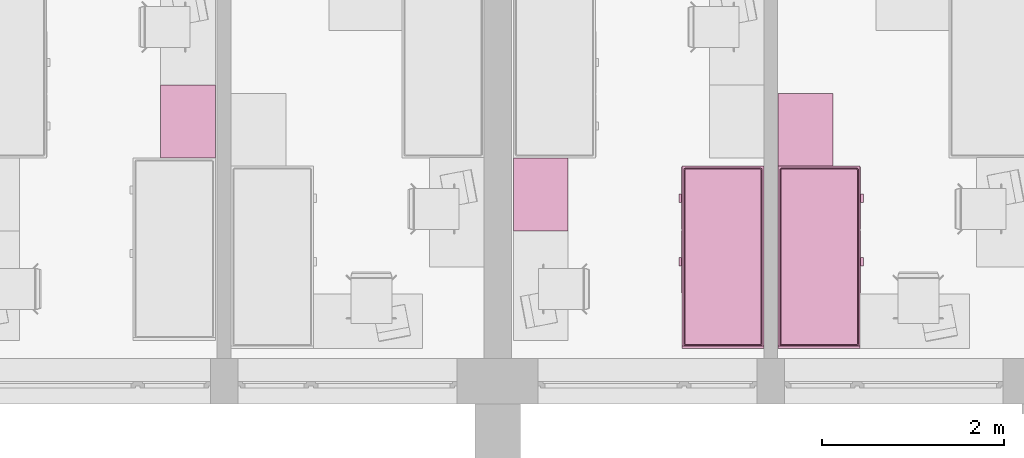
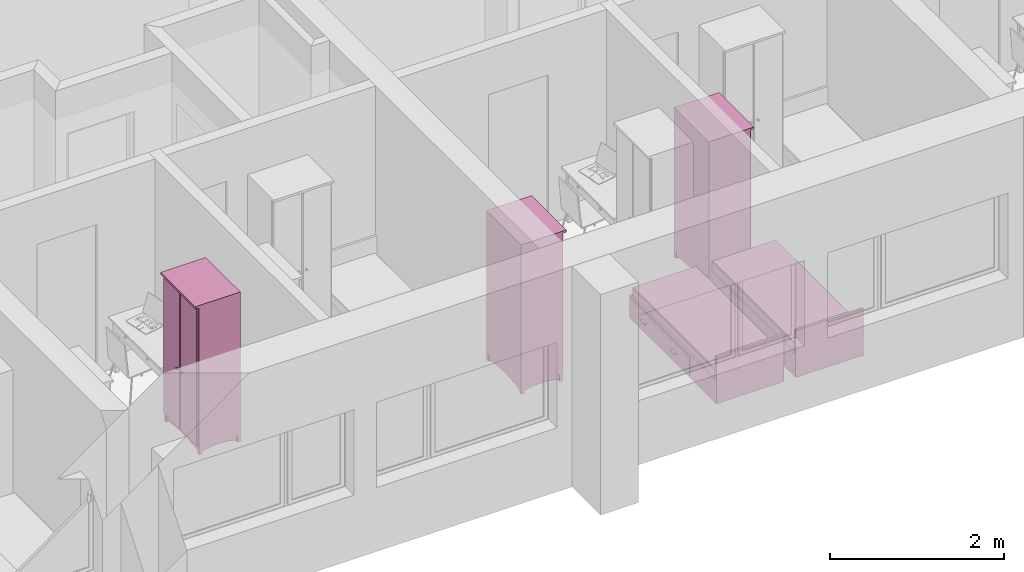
# One storey, part 82 of 172: 5 furnishings.
"""IFC2X3 building model written with IfcOpenShell, lengths in millimetres."""

from ifc_helpers import new_model, entity, si_unit, converted_unit, money_unit, direction, frame, origin_with_axes, place, context, subcontext, project, spatial, faceted_brep, source, transform, mapped, material, material_list, type_object, element, save


model = new_model("IFC2X3")

# Units and contexts
model_context = context("Model", 3, precision=1e-05, world=origin_with_axes(), true_north=direction((0.0, 1.0)))
body_context = subcontext(model_context, "Body", "Model", "MODEL_VIEW")
ifc_project = project(units=[si_unit("LENGTHUNIT", "METRE", prefix="MILLI"), si_unit("AREAUNIT", "SQUARE_METRE"), si_unit("VOLUMEUNIT", "CUBIC_METRE"), converted_unit("PLANEANGLEUNIT", "DEGREE", entity("IfcPlaneAngleMeasure", 0.0174532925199), si_unit("PLANEANGLEUNIT", "RADIAN"), dimensions=[0, 0, 0, 0, 0, 0, 0]), si_unit("SOLIDANGLEUNIT", "STERADIAN"), money_unit("USD"), converted_unit("TIMEUNIT", "Year", entity("IfcTimeMeasure", 31556926.0), si_unit("TIMEUNIT", "SECOND"), dimensions=[0, 0, 0, 0, 0, 0, 0]), si_unit("MASSUNIT", "GRAM"), si_unit("THERMODYNAMICTEMPERATUREUNIT", "DEGREE_CELSIUS"), si_unit("LUMINOUSINTENSITYUNIT", "LUMEN")], contexts=[model_context])

# Site, building, storey
site_placement = place(None, origin_with_axes())
site = spatial("IfcSite", under=ifc_project, at=site_placement, Name="Site", CompositionType="ELEMENT")
building_placement = place(site_placement, origin_with_axes())
building = spatial("IfcBuilding", under=site, at=building_placement, Name="Building", CompositionType="ELEMENT")
storey_placement = place(building_placement, frame((0.0, 0.0, 3200.0), z_axis=(0.0, 0.0, 1.0), x_axis=(1.0, 0.0, 0.0)))
storey = spatial("IfcBuildingStorey", under=building, at=storey_placement, Name="3KORRUS", CompositionType="ELEMENT", Elevation=3200.0)

# Furnishings
ifc_material = material(Name="Background")
ifc_material_list = material_list([ifc_material])
furnishing_element_type_1 = type_object("IfcFurnishingElementType", Name="Bed 19")
shared_shape_1 = source(origin_with_axes(), body_context, "Body", "Brep", [
    faceted_brep([(900.0, 1970.0, 0.0), (0.0, 1970.0, 0.0), (0.0, 2000.0, 0.0), (900.0, 2000.0, 0.0), (900.0, 1970.0, 660.0), (0.0, 1970.0, 660.0), (0.0, 2000.0, 660.0), (900.0, 2000.0, 660.0)], [[[0, 1, 2, 3]], [[1, 0, 4, 5]], [[2, 1, 5, 6]], [[3, 2, 6, 7]], [[0, 3, 7, 4]], [[5, 4, 7, 6]]]),
    faceted_brep([(900.0, 0.0, 0.0), (0.0, 0.0, 0.0), (0.0, 1970.0, 0.0), (900.0, 1970.0, 0.0), (900.0, 0.0, 320.0), (0.0, 0.0, 320.0), (0.0, 1970.0, 320.0), (900.0, 1970.0, 320.0)], [[[0, 1, 2, 3]], [[1, 0, 4, 5]], [[2, 1, 5, 6]], [[3, 2, 6, 7]], [[0, 3, 7, 4]], [[5, 4, 7, 6]]]),
    faceted_brep([(905.0, 10.0, 30.0), (900.0, 10.0, 30.0), (900.0, 695.0, 30.0), (905.0, 695.0, 30.0), (905.0, 10.0, 290.0), (900.0, 10.0, 290.0), (900.0, 695.0, 290.0), (905.0, 695.0, 290.0)], [[[0, 1, 2, 3]], [[1, 0, 4, 5]], [[2, 1, 5, 6]], [[3, 2, 6, 7]], [[0, 3, 7, 4]], [[5, 4, 7, 6]]]),
    faceted_brep([(935.0, 307.5, 150.0), (905.0, 307.5, 150.0), (905.0, 397.5, 150.0), (935.0, 397.5, 150.0), (935.0, 307.5, 170.0), (905.0, 307.5, 170.0), (905.0, 397.5, 170.0), (935.0, 397.5, 170.0)], [[[0, 1, 2, 3]], [[1, 0, 4, 5]], [[2, 1, 5, 6]], [[3, 2, 6, 7]], [[0, 3, 7, 4]], [[5, 4, 7, 6]]]),
    faceted_brep([(905.0, 705.0, 30.0), (900.0, 705.0, 30.0), (900.0, 1390.0, 30.0), (905.0, 1390.0, 30.0), (905.0, 705.0, 290.0), (900.0, 705.0, 290.0), (900.0, 1390.0, 290.0), (905.0, 1390.0, 290.0)], [[[0, 1, 2, 3]], [[1, 0, 4, 5]], [[2, 1, 5, 6]], [[3, 2, 6, 7]], [[0, 3, 7, 4]], [[5, 4, 7, 6]]]),
    faceted_brep([(935.0, 1002.5, 150.0), (905.0, 1002.5, 150.0), (905.0, 1092.5, 150.0), (935.0, 1092.5, 150.0), (935.0, 1002.5, 170.0), (905.0, 1002.5, 170.0), (905.0, 1092.5, 170.0), (935.0, 1092.5, 170.0)], [[[0, 1, 2, 3]], [[1, 0, 4, 5]], [[2, 1, 5, 6]], [[3, 2, 6, 7]], [[0, 3, 7, 4]], [[5, 4, 7, 6]]]),
    faceted_brep([(20.0, 40.0, 350.0), (20.0, 1950.0, 350.0), (21.522, 1957.654, 350.0), (25.858, 1964.142, 350.0), (32.346, 1968.478, 350.0), (40.0, 1970.0, 350.0), (860.0, 1970.0, 350.0), (867.654, 1968.478, 350.0), (874.142, 1964.142, 350.0), (878.478, 1957.654, 350.0), (880.0, 1950.0, 350.0), (880.0, 40.0, 350.0), (878.478, 32.346, 350.0), (874.142, 25.858, 350.0), (867.654, 21.522, 350.0), (860.0, 20.0, 350.0), (40.0, 20.0, 350.0), (32.346, 21.522, 350.0), (25.858, 25.858, 350.0), (21.522, 32.346, 350.0), (20.0, 40.0, 420.0), (20.0, 1950.0, 420.0), (21.522, 1957.654, 420.0), (25.858, 1964.142, 420.0), (32.346, 1968.478, 420.0), (40.0, 1970.0, 420.0), (860.0, 1970.0, 420.0), (867.654, 1968.478, 420.0), (874.142, 1964.142, 420.0), (878.478, 1957.654, 420.0), (880.0, 1950.0, 420.0), (880.0, 40.0, 420.0), (878.478, 32.346, 420.0), (874.142, 25.858, 420.0), (867.654, 21.522, 420.0), (860.0, 20.0, 420.0), (40.0, 20.0, 420.0), (32.346, 21.522, 420.0), (25.858, 25.858, 420.0), (21.522, 32.346, 420.0), (21.522, 40.15, 427.654), (21.522, 1949.85, 427.654), (22.956, 1957.06, 427.654), (26.955, 1963.045, 427.654), (32.94, 1967.044, 427.654), (40.15, 1968.478, 427.654), (859.85, 1968.478, 427.654), (867.06, 1967.044, 427.654), (873.045, 1963.045, 427.654), (877.044, 1957.06, 427.654), (878.478, 1949.85, 427.654), (878.478, 40.15, 427.654), (877.044, 32.94, 427.654), (873.045, 26.955, 427.654), (867.06, 22.956, 427.654), (859.85, 21.522, 427.654), (40.15, 21.522, 427.654), (32.94, 22.956, 427.654), (26.955, 26.955, 427.654), (22.956, 32.94, 427.654), (32.346, 41.216, 438.478), (32.346, 1948.784, 438.478), (33.152, 1952.836, 438.478), (34.759, 1955.241, 438.478), (37.164, 1956.848, 438.478), (41.216, 1957.654, 438.478), (858.784, 1957.654, 438.478), (862.836, 1956.848, 438.478), (865.241, 1955.241, 438.478), (866.848, 1952.836, 438.478), (867.654, 1948.784, 438.478), (867.654, 41.216, 438.478), (866.848, 37.164, 438.478), (865.241, 34.759, 438.478), (862.836, 33.152, 438.478), (858.784, 32.346, 438.478), (41.216, 32.346, 438.478), (37.164, 33.152, 438.478), (34.759, 34.759, 438.478), (33.152, 37.164, 438.478), (40.0, 41.97, 440.0), (40.0, 1948.03, 440.0), (40.327, 1949.673, 440.0), (40.0, 1950.0, 439.924), (41.97, 1950.0, 440.0), (858.03, 1950.0, 440.0), (859.673, 1949.673, 440.0), (860.0, 1950.0, 439.924), (860.0, 1948.03, 440.0), (860.0, 41.97, 440.0), (859.673, 40.327, 440.0), (860.0, 40.0, 439.924), (858.03, 40.0, 440.0), (41.97, 40.0, 440.0), (40.327, 40.327, 440.0), (40.0, 40.0, 439.924)], [[[0, 1, 2, 3, 4, 5, 6, 7, 8, 9, 10, 11, 12, 13, 14, 15, 16, 17, 18, 19]], [[1, 0, 20, 21]], [[2, 1, 21, 22]], [[3, 2, 22, 23]], [[4, 3, 23, 24]], [[5, 4, 24, 25]], [[6, 5, 25, 26]], [[7, 6, 26, 27]], [[8, 7, 27, 28]], [[9, 8, 28, 29]], [[10, 9, 29, 30]], [[11, 10, 30, 31]], [[12, 11, 31, 32]], [[13, 12, 32, 33]], [[14, 13, 33, 34]], [[15, 14, 34, 35]], [[16, 15, 35, 36]], [[17, 16, 36, 37]], [[18, 17, 37, 38]], [[19, 18, 38, 39]], [[0, 19, 39, 20]], [[21, 20, 40, 41]], [[22, 21, 41, 42]], [[23, 22, 42, 43]], [[24, 23, 43, 44]], [[25, 24, 44, 45]], [[26, 25, 45, 46]], [[27, 26, 46, 47]], [[28, 27, 47, 48]], [[29, 28, 48, 49]], [[30, 29, 49, 50]], [[31, 30, 50, 51]], [[32, 31, 51, 52]], [[33, 32, 52, 53]], [[34, 33, 53, 54]], [[35, 34, 54, 55]], [[36, 35, 55, 56]], [[37, 36, 56, 57]], [[38, 37, 57, 58]], [[39, 38, 58, 59]], [[20, 39, 59, 40]], [[41, 40, 60, 61]], [[42, 41, 61, 62]], [[43, 42, 62, 63]], [[44, 43, 63, 64]], [[45, 44, 64, 65]], [[46, 45, 65, 66]], [[47, 46, 66, 67]], [[48, 47, 67, 68]], [[49, 48, 68, 69]], [[50, 49, 69, 70]], [[51, 50, 70, 71]], [[52, 51, 71, 72]], [[53, 52, 72, 73]], [[54, 53, 73, 74]], [[55, 54, 74, 75]], [[56, 55, 75, 76]], [[57, 56, 76, 77]], [[58, 57, 77, 78]], [[59, 58, 78, 79]], [[40, 59, 79, 60]], [[61, 60, 80, 81]], [[62, 61, 81, 82, 83]], [[63, 62, 83]], [[64, 63, 83]], [[65, 64, 83, 82, 84]], [[66, 65, 84, 85]], [[67, 66, 85, 86, 87]], [[68, 67, 87]], [[69, 68, 87]], [[70, 69, 87, 86, 88]], [[71, 70, 88, 89]], [[72, 71, 89, 90, 91]], [[73, 72, 91]], [[74, 73, 91]], [[75, 74, 91, 90, 92]], [[76, 75, 92, 93]], [[77, 76, 93, 94, 95]], [[78, 77, 95]], [[79, 78, 95]], [[60, 79, 95, 94, 80]], [[81, 80, 94, 93, 92, 90, 89, 88, 86, 85, 84, 82]]]),
    faceted_brep([(20.0, 40.0, 350.0), (21.522, 32.346, 350.0), (25.858, 25.858, 350.0), (32.346, 21.522, 350.0), (40.0, 20.0, 350.0), (860.0, 20.0, 350.0), (867.654, 21.522, 350.0), (874.142, 25.858, 350.0), (878.478, 32.346, 350.0), (880.0, 40.0, 350.0), (880.0, 1950.0, 350.0), (878.478, 1957.654, 350.0), (874.142, 1964.142, 350.0), (867.654, 1968.478, 350.0), (860.0, 1970.0, 350.0), (40.0, 1970.0, 350.0), (32.346, 1968.478, 350.0), (25.858, 1964.142, 350.0), (21.522, 1957.654, 350.0), (20.0, 1950.0, 350.0), (20.0, 40.0, 320.0), (21.522, 32.346, 320.0), (25.858, 25.858, 320.0), (32.346, 21.522, 320.0), (40.0, 20.0, 320.0), (860.0, 20.0, 320.0), (867.654, 21.522, 320.0), (874.142, 25.858, 320.0), (878.478, 32.346, 320.0), (880.0, 40.0, 320.0), (880.0, 1950.0, 320.0), (878.478, 1957.654, 320.0), (874.142, 1964.142, 320.0), (867.654, 1968.478, 320.0), (860.0, 1970.0, 320.0), (40.0, 1970.0, 320.0), (32.346, 1968.478, 320.0), (25.858, 1964.142, 320.0), (21.522, 1957.654, 320.0), (20.0, 1950.0, 320.0)], [[[0, 1, 2, 3, 4, 5, 6, 7, 8, 9, 10, 11, 12, 13, 14, 15, 16, 17, 18, 19]], [[0, 20, 21, 1]], [[1, 21, 22, 2]], [[2, 22, 23, 3]], [[3, 23, 24, 4]], [[4, 24, 25, 5]], [[5, 25, 26, 6]], [[6, 26, 27, 7]], [[7, 27, 28, 8]], [[8, 28, 29, 9]], [[9, 29, 30, 10]], [[10, 30, 31, 11]], [[11, 31, 32, 12]], [[12, 32, 33, 13]], [[13, 33, 34, 14]], [[14, 34, 35, 15]], [[15, 35, 36, 16]], [[16, 36, 37, 17]], [[17, 37, 38, 18]], [[18, 38, 39, 19]], [[19, 39, 20, 0]], [[20, 39, 38, 37, 36, 35, 34, 33, 32, 31, 30, 29, 28, 27, 26, 25, 24, 23, 22, 21]]]),
])
furnishing_1_placement = place(storey_placement, frame((-39220.2967033, -17529.2398994, 0.0), z_axis=(0.0, 0.0, 1.0), x_axis=(-1.0, 0.0, 0.0)))
element("IfcFurnishingElement", 1, at=furnishing_1_placement, inside=storey, type_object=furnishing_element_type_1, material=ifc_material_list, Name="FU - 013", context=body_context, shape_type="MappedRepresentation", body=[
    mapped(shared_shape_1, transform((0.0, 0.0, 0.0))),
])
furnishing_element_type_2 = type_object("IfcFurnishingElementType", Name="Cupboard 19")
shared_shape_2 = source(origin_with_axes(), body_context, "Body", "Brep", [
    faceted_brep([(780.0, 600.0, 120.0), (780.0, 600.0, 2050.0), (780.0, 580.0, 2050.0), (780.0, 580.0, 120.0), (20.0, 600.0, 120.0), (20.0, 600.0, 2050.0), (20.0, 580.0, 2050.0), (20.0, 580.0, 120.0)], [[[0, 1, 2, 3]], [[4, 5, 1, 0]], [[1, 5, 6, 2]], [[3, 2, 6, 7]], [[0, 3, 7, 4]], [[7, 6, 5, 4]]]),
    faceted_brep([(0.0, 50.0, 100.0), (0.0, 600.0, 100.0), (20.0, 600.0, 100.0), (20.0, 50.0, 100.0), (0.0, 50.0, 2070.0), (0.0, 600.0, 2070.0), (20.0, 600.0, 2070.0), (20.0, 50.0, 2070.0)], [[[0, 1, 2, 3]], [[0, 4, 5, 1]], [[1, 5, 6, 2]], [[2, 6, 7, 3]], [[3, 7, 4, 0]], [[7, 6, 5, 4]]]),
    faceted_brep([(780.0, 50.0, 100.0), (780.0, 600.0, 100.0), (800.0, 600.0, 100.0), (800.0, 50.0, 100.0), (780.0, 50.0, 2070.0), (780.0, 600.0, 2070.0), (800.0, 600.0, 2070.0), (800.0, 50.0, 2070.0)], [[[0, 1, 2, 3]], [[0, 4, 5, 1]], [[1, 5, 6, 2]], [[2, 6, 7, 3]], [[3, 7, 4, 0]], [[7, 6, 5, 4]]]),
    faceted_brep([(20.0, 50.0, 100.0), (20.0, 600.0, 100.0), (780.0, 600.0, 100.0), (780.0, 50.0, 100.0), (20.0, 50.0, 120.0), (20.0, 600.0, 120.0), (780.0, 600.0, 120.0), (780.0, 50.0, 120.0)], [[[0, 1, 2, 3]], [[0, 4, 5, 1]], [[1, 5, 6, 2]], [[2, 6, 7, 3]], [[3, 7, 4, 0]], [[7, 6, 5, 4]]]),
    faceted_brep([(20.0, 50.0, 2050.0), (20.0, 600.0, 2050.0), (780.0, 600.0, 2050.0), (780.0, 50.0, 2050.0), (20.0, 50.0, 2070.0), (20.0, 600.0, 2070.0), (780.0, 600.0, 2070.0), (780.0, 50.0, 2070.0)], [[[0, 1, 2, 3]], [[0, 4, 5, 1]], [[1, 5, 6, 2]], [[2, 6, 7, 3]], [[3, 7, 4, 0]], [[7, 6, 5, 4]]]),
    faceted_brep([(0.0, 600.0, 2070.0), (0.0, 0.0, 2070.0), (0.0, 0.0, 2100.0), (0.0, 600.0, 2100.0), (800.0, 600.0, 2070.0), (800.0, 0.0, 2070.0), (800.0, 0.0, 2100.0), (800.0, 600.0, 2100.0)], [[[0, 1, 2, 3]], [[0, 4, 5, 1]], [[1, 5, 6, 2]], [[3, 2, 6, 7]], [[4, 0, 3, 7]], [[5, 4, 7, 6]]]),
    faceted_brep([(760.0, 590.0, 25.0), (760.0, 570.0, 25.0), (640.962, 570.0, 45.8), (640.962, 590.0, 45.8), (760.0, 590.0, 100.0), (760.0, 570.0, 100.0), (40.0, 570.0, 100.0), (40.0, 570.0, 25.0), (159.038, 570.0, 45.8), (279.23, 570.0, 58.32), (400.0, 570.0, 62.5), (520.77, 570.0, 58.32), (520.77, 590.0, 58.32), (400.0, 590.0, 62.5), (279.23, 590.0, 58.32), (159.038, 590.0, 45.8), (40.0, 590.0, 25.0), (40.0, 590.0, 100.0)], [[[0, 1, 2, 3]], [[4, 5, 1, 0]], [[1, 5, 6, 7, 8, 9, 10, 11, 2]], [[3, 2, 11, 12]], [[0, 3, 12, 13, 14, 15, 16, 17, 4]], [[17, 6, 5, 4]], [[16, 7, 6, 17]], [[15, 8, 7, 16]], [[14, 9, 8, 15]], [[13, 10, 9, 14]], [[12, 11, 10, 13]]]),
    faceted_brep([(760.0, 80.0, 25.0), (760.0, 60.0, 25.0), (640.962, 60.0, 45.8), (640.962, 80.0, 45.8), (760.0, 80.0, 100.0), (760.0, 60.0, 100.0), (40.0, 60.0, 100.0), (40.0, 60.0, 25.0), (159.038, 60.0, 45.8), (279.23, 60.0, 58.32), (400.0, 60.0, 62.5), (520.77, 60.0, 58.32), (520.77, 80.0, 58.32), (400.0, 80.0, 62.5), (279.23, 80.0, 58.32), (159.038, 80.0, 45.8), (40.0, 80.0, 25.0), (40.0, 80.0, 100.0)], [[[0, 1, 2, 3]], [[4, 5, 1, 0]], [[1, 5, 6, 7, 8, 9, 10, 11, 2]], [[3, 2, 11, 12]], [[0, 3, 12, 13, 14, 15, 16, 17, 4]], [[17, 6, 5, 4]], [[16, 7, 6, 17]], [[15, 8, 7, 16]], [[14, 9, 8, 15]], [[13, 10, 9, 14]], [[12, 11, 10, 13]]]),
    faceted_brep([(790.0, 90.0, 25.0), (770.0, 90.0, 25.0), (770.0, 141.266, 38.072), (790.0, 141.266, 38.072), (790.0, 90.0, 100.0), (770.0, 90.0, 100.0), (770.0, 560.0, 100.0), (770.0, 560.0, 25.0), (770.0, 508.734, 38.072), (770.0, 456.752, 47.92), (770.0, 404.257, 54.508), (770.0, 351.453, 57.808), (770.0, 298.547, 57.808), (770.0, 245.743, 54.508), (770.0, 193.248, 47.92), (790.0, 193.248, 47.92), (790.0, 245.743, 54.508), (790.0, 298.547, 57.808), (790.0, 351.453, 57.808), (790.0, 404.257, 54.508), (790.0, 456.752, 47.92), (790.0, 508.734, 38.072), (790.0, 560.0, 25.0), (790.0, 560.0, 100.0)], [[[0, 1, 2, 3]], [[4, 5, 1, 0]], [[1, 5, 6, 7, 8, 9, 10, 11, 12, 13, 14, 2]], [[3, 2, 14, 15]], [[0, 3, 15, 16, 17, 18, 19, 20, 21, 22, 23, 4]], [[23, 6, 5, 4]], [[22, 7, 6, 23]], [[21, 8, 7, 22]], [[20, 9, 8, 21]], [[19, 10, 9, 20]], [[18, 11, 10, 19]], [[17, 12, 11, 18]], [[16, 13, 12, 17]], [[15, 14, 13, 16]]]),
    faceted_brep([(30.0, 90.0, 25.0), (10.0, 90.0, 25.0), (10.0, 141.266, 38.072), (30.0, 141.266, 38.072), (30.0, 90.0, 100.0), (10.0, 90.0, 100.0), (10.0, 560.0, 100.0), (10.0, 560.0, 25.0), (10.0, 508.734, 38.072), (10.0, 456.752, 47.92), (10.0, 404.257, 54.508), (10.0, 351.453, 57.808), (10.0, 298.547, 57.808), (10.0, 245.743, 54.508), (10.0, 193.248, 47.92), (30.0, 193.248, 47.92), (30.0, 245.743, 54.508), (30.0, 298.547, 57.808), (30.0, 351.453, 57.808), (30.0, 404.257, 54.508), (30.0, 456.752, 47.92), (30.0, 508.734, 38.072), (30.0, 560.0, 25.0), (30.0, 560.0, 100.0)], [[[0, 1, 2, 3]], [[4, 5, 1, 0]], [[1, 5, 6, 7, 8, 9, 10, 11, 12, 13, 14, 2]], [[3, 2, 14, 15]], [[0, 3, 15, 16, 17, 18, 19, 20, 21, 22, 23, 4]], [[23, 6, 5, 4]], [[22, 7, 6, 23]], [[21, 8, 7, 22]], [[20, 9, 8, 21]], [[19, 10, 9, 20]], [[18, 11, 10, 19]], [[17, 12, 11, 18]], [[16, 13, 12, 17]], [[15, 14, 13, 16]]]),
    faceted_brep([(760.0, 560.0, 0.0), (760.0, 560.0, 100.0), (760.0, 600.0, 100.0), (760.0, 600.0, 0.0), (800.0, 560.0, 0.0), (800.0, 560.0, 100.0), (800.0, 600.0, 100.0), (800.0, 600.0, 0.0)], [[[0, 1, 2, 3]], [[4, 5, 1, 0]], [[1, 5, 6, 2]], [[3, 2, 6, 7]], [[0, 3, 7, 4]], [[7, 6, 5, 4]]]),
    faceted_brep([(0.0, 560.0, 0.0), (0.0, 560.0, 100.0), (0.0, 600.0, 100.0), (0.0, 600.0, 0.0), (40.0, 560.0, 0.0), (40.0, 560.0, 100.0), (40.0, 600.0, 100.0), (40.0, 600.0, 0.0)], [[[0, 1, 2, 3]], [[4, 5, 1, 0]], [[1, 5, 6, 2]], [[3, 2, 6, 7]], [[0, 3, 7, 4]], [[7, 6, 5, 4]]]),
    faceted_brep([(760.0, 50.0, 0.0), (760.0, 50.0, 100.0), (760.0, 90.0, 100.0), (760.0, 90.0, 0.0), (800.0, 50.0, 0.0), (800.0, 50.0, 100.0), (800.0, 90.0, 100.0), (800.0, 90.0, 0.0)], [[[0, 1, 2, 3]], [[4, 5, 1, 0]], [[1, 5, 6, 2]], [[3, 2, 6, 7]], [[0, 3, 7, 4]], [[7, 6, 5, 4]]]),
    faceted_brep([(0.0, 50.0, 0.0), (0.0, 50.0, 100.0), (0.0, 90.0, 100.0), (0.0, 90.0, 0.0), (40.0, 50.0, 0.0), (40.0, 50.0, 100.0), (40.0, 90.0, 100.0), (40.0, 90.0, 0.0)], [[[0, 1, 2, 3]], [[4, 5, 1, 0]], [[1, 5, 6, 2]], [[3, 2, 6, 7]], [[0, 3, 7, 4]], [[7, 6, 5, 4]]]),
    faceted_brep([(780.0, 580.0, 587.5), (780.0, 580.0, 607.5), (780.0, 50.0, 607.5), (780.0, 50.0, 587.5), (20.0, 580.0, 587.5), (20.0, 580.0, 607.5), (20.0, 50.0, 607.5), (20.0, 50.0, 587.5)], [[[0, 1, 2, 3]], [[4, 5, 1, 0]], [[1, 5, 6, 2]], [[3, 2, 6, 7]], [[0, 3, 7, 4]], [[7, 6, 5, 4]]]),
    faceted_brep([(780.0, 580.0, 1075.0), (780.0, 580.0, 1095.0), (780.0, 50.0, 1095.0), (780.0, 50.0, 1075.0), (20.0, 580.0, 1075.0), (20.0, 580.0, 1095.0), (20.0, 50.0, 1095.0), (20.0, 50.0, 1075.0)], [[[0, 1, 2, 3]], [[4, 5, 1, 0]], [[1, 5, 6, 2]], [[3, 2, 6, 7]], [[0, 3, 7, 4]], [[7, 6, 5, 4]]]),
    faceted_brep([(780.0, 580.0, 1562.5), (780.0, 580.0, 1582.5), (780.0, 50.0, 1582.5), (780.0, 50.0, 1562.5), (20.0, 580.0, 1562.5), (20.0, 580.0, 1582.5), (20.0, 50.0, 1582.5), (20.0, 50.0, 1562.5)], [[[0, 1, 2, 3]], [[4, 5, 1, 0]], [[1, 5, 6, 2]], [[3, 2, 6, 7]], [[0, 3, 7, 4]], [[7, 6, 5, 4]]]),
    faceted_brep([(789.5, 50.0, 110.5), (400.5, 50.0, 110.5), (400.5, 50.0, 2059.5), (789.5, 50.0, 2059.5), (789.5, 40.0, 110.5), (400.5, 40.0, 110.5), (400.5, 40.0, 2059.5), (789.5, 40.0, 2059.5), (779.5, 30.0, 120.5), (410.5, 30.0, 120.5), (410.5, 30.0, 2049.5), (779.5, 30.0, 2049.5)], [[[0, 1, 2, 3]], [[0, 4, 5, 1]], [[1, 5, 6, 2]], [[2, 6, 7, 3]], [[3, 7, 4, 0]], [[4, 8, 9, 5]], [[5, 9, 10, 6]], [[6, 10, 11, 7]], [[7, 11, 8, 4]], [[10, 9, 8, 11]]]),
    faceted_brep([(399.5, 50.0, 110.5), (10.5, 50.0, 110.5), (10.5, 50.0, 2059.5), (399.5, 50.0, 2059.5), (399.5, 40.0, 110.5), (10.5, 40.0, 110.5), (10.5, 40.0, 2059.5), (399.5, 40.0, 2059.5), (389.5, 30.0, 120.5), (20.5, 30.0, 120.5), (20.5, 30.0, 2049.5), (389.5, 30.0, 2049.5)], [[[0, 1, 2, 3]], [[0, 4, 5, 1]], [[1, 5, 6, 2]], [[2, 6, 7, 3]], [[3, 7, 4, 0]], [[4, 8, 9, 5]], [[5, 9, 10, 6]], [[6, 10, 11, 7]], [[7, 11, 8, 4]], [[10, 9, 8, 11]]]),
    faceted_brep([(339.608, 30.0, 954.0), (338.0, 30.0, 960.0), (339.608, 30.0, 966.0), (344.0, 30.0, 970.392), (350.0, 30.0, 972.0), (356.0, 30.0, 970.392), (360.392, 30.0, 966.0), (362.0, 30.0, 960.0), (360.392, 30.0, 954.0), (356.0, 30.0, 949.608), (350.0, 30.0, 948.0), (344.0, 30.0, 949.608), (339.608, 5.0, 954.0), (338.0, 5.0, 960.0), (339.608, 5.0, 966.0), (344.0, 5.0, 970.392), (350.0, 5.0, 972.0), (356.0, 5.0, 970.392), (360.392, 5.0, 966.0), (362.0, 5.0, 960.0), (360.392, 5.0, 954.0), (356.0, 5.0, 949.608), (350.0, 5.0, 948.0), (344.0, 5.0, 949.608)], [[[0, 1, 2, 3, 4, 5, 6, 7, 8, 9, 10, 11]], [[0, 12, 13, 1]], [[1, 13, 14, 2]], [[2, 14, 15, 3]], [[3, 15, 16, 4]], [[4, 16, 17, 5]], [[5, 17, 18, 6]], [[6, 18, 19, 7]], [[7, 19, 20, 8]], [[8, 20, 21, 9]], [[9, 21, 22, 10]], [[10, 22, 23, 11]], [[11, 23, 12, 0]], [[12, 23, 22, 21, 20, 19, 18, 17, 16, 15, 14, 13]]]),
    faceted_brep([(460.392, 30.0, 954.0), (456.0, 30.0, 949.608), (450.0, 30.0, 948.0), (444.0, 30.0, 949.608), (439.608, 30.0, 954.0), (438.0, 30.0, 960.0), (439.608, 30.0, 966.0), (444.0, 30.0, 970.392), (450.0, 30.0, 972.0), (456.0, 30.0, 970.392), (460.392, 30.0, 966.0), (462.0, 30.0, 960.0), (460.392, 5.0, 954.0), (456.0, 5.0, 949.608), (450.0, 5.0, 948.0), (444.0, 5.0, 949.608), (439.608, 5.0, 954.0), (438.0, 5.0, 960.0), (439.608, 5.0, 966.0), (444.0, 5.0, 970.392), (450.0, 5.0, 972.0), (456.0, 5.0, 970.392), (460.392, 5.0, 966.0), (462.0, 5.0, 960.0)], [[[0, 1, 2, 3, 4, 5, 6, 7, 8, 9, 10, 11]], [[1, 0, 12, 13]], [[2, 1, 13, 14]], [[3, 2, 14, 15]], [[4, 3, 15, 16]], [[5, 4, 16, 17]], [[6, 5, 17, 18]], [[7, 6, 18, 19]], [[8, 7, 19, 20]], [[9, 8, 20, 21]], [[10, 9, 21, 22]], [[11, 10, 22, 23]], [[0, 11, 23, 12]], [[12, 23, 22, 21, 20, 19, 18, 17, 16, 15, 14, 13]]]),
])
for number, where, z_axis, x_axis, name in (
    (2, (-45840.2967033, -16639.2398994, 0.0), (0.0, 0.0, 1.0), (0.0, -1.0, 0.0), "FU - 014"),
    (3, (-38465.2967033, -17529.2398994, 0.0), (0.0, 0.0, 1.0), (0.0, 1.0, 0.0), "FU - 014"),
    (4, (-41370.2967033, -18239.2398994, 0.0), (0.0, 0.0, 1.0), (0.0, 1.0, 0.0), "FU - 014"),
):
    element("IfcFurnishingElement", number, at=place(storey_placement, frame(where, z_axis=z_axis, x_axis=x_axis)), inside=storey, type_object=furnishing_element_type_2, material=ifc_material_list, Name=name, context=body_context, shape_type="MappedRepresentation", body=[
        mapped(shared_shape_2, transform((0.0, 0.0, 0.0))),
    ])
shared_shape_3 = source(origin_with_axes(), body_context, "Body", "Brep", [
    faceted_brep([(-900.0, 1970.0, 0.0), (-900.0, 2000.0, 0.0), (0.0, 2000.0, 0.0), (0.0, 1970.0, 0.0), (-900.0, 1970.0, 660.0), (-900.0, 2000.0, 660.0), (0.0, 2000.0, 660.0), (0.0, 1970.0, 660.0)], [[[0, 1, 2, 3]], [[0, 4, 5, 1]], [[1, 5, 6, 2]], [[2, 6, 7, 3]], [[3, 7, 4, 0]], [[7, 6, 5, 4]]]),
    faceted_brep([(-900.0, 0.0, 0.0), (-900.0, 1970.0, 0.0), (0.0, 1970.0, 0.0), (0.0, 0.0, 0.0), (-900.0, 0.0, 320.0), (-900.0, 1970.0, 320.0), (0.0, 1970.0, 320.0), (0.0, 0.0, 320.0)], [[[0, 1, 2, 3]], [[0, 4, 5, 1]], [[1, 5, 6, 2]], [[2, 6, 7, 3]], [[3, 7, 4, 0]], [[7, 6, 5, 4]]]),
    faceted_brep([(-905.0, 10.0, 30.0), (-905.0, 695.0, 30.0), (-900.0, 695.0, 30.0), (-900.0, 10.0, 30.0), (-905.0, 10.0, 290.0), (-905.0, 695.0, 290.0), (-900.0, 695.0, 290.0), (-900.0, 10.0, 290.0)], [[[0, 1, 2, 3]], [[0, 4, 5, 1]], [[1, 5, 6, 2]], [[2, 6, 7, 3]], [[3, 7, 4, 0]], [[7, 6, 5, 4]]]),
    faceted_brep([(-935.0, 307.5, 150.0), (-935.0, 397.5, 150.0), (-905.0, 397.5, 150.0), (-905.0, 307.5, 150.0), (-935.0, 307.5, 170.0), (-935.0, 397.5, 170.0), (-905.0, 397.5, 170.0), (-905.0, 307.5, 170.0)], [[[0, 1, 2, 3]], [[0, 4, 5, 1]], [[1, 5, 6, 2]], [[2, 6, 7, 3]], [[3, 7, 4, 0]], [[7, 6, 5, 4]]]),
    faceted_brep([(-905.0, 705.0, 30.0), (-905.0, 1390.0, 30.0), (-900.0, 1390.0, 30.0), (-900.0, 705.0, 30.0), (-905.0, 705.0, 290.0), (-905.0, 1390.0, 290.0), (-900.0, 1390.0, 290.0), (-900.0, 705.0, 290.0)], [[[0, 1, 2, 3]], [[0, 4, 5, 1]], [[1, 5, 6, 2]], [[2, 6, 7, 3]], [[3, 7, 4, 0]], [[7, 6, 5, 4]]]),
    faceted_brep([(-935.0, 1002.5, 150.0), (-935.0, 1092.5, 150.0), (-905.0, 1092.5, 150.0), (-905.0, 1002.5, 150.0), (-935.0, 1002.5, 170.0), (-935.0, 1092.5, 170.0), (-905.0, 1092.5, 170.0), (-905.0, 1002.5, 170.0)], [[[0, 1, 2, 3]], [[0, 4, 5, 1]], [[1, 5, 6, 2]], [[2, 6, 7, 3]], [[3, 7, 4, 0]], [[7, 6, 5, 4]]]),
    faceted_brep([(-20.0, 40.0, 350.0), (-21.522, 32.346, 350.0), (-25.858, 25.858, 350.0), (-32.346, 21.522, 350.0), (-40.0, 20.0, 350.0), (-860.0, 20.0, 350.0), (-867.654, 21.522, 350.0), (-874.142, 25.858, 350.0), (-878.478, 32.346, 350.0), (-880.0, 40.0, 350.0), (-880.0, 1950.0, 350.0), (-878.478, 1957.654, 350.0), (-874.142, 1964.142, 350.0), (-867.654, 1968.478, 350.0), (-860.0, 1970.0, 350.0), (-40.0, 1970.0, 350.0), (-32.346, 1968.478, 350.0), (-25.858, 1964.142, 350.0), (-21.522, 1957.654, 350.0), (-20.0, 1950.0, 350.0), (-20.0, 40.0, 420.0), (-21.522, 32.346, 420.0), (-25.858, 25.858, 420.0), (-32.346, 21.522, 420.0), (-40.0, 20.0, 420.0), (-860.0, 20.0, 420.0), (-867.654, 21.522, 420.0), (-874.142, 25.858, 420.0), (-878.478, 32.346, 420.0), (-880.0, 40.0, 420.0), (-880.0, 1950.0, 420.0), (-878.478, 1957.654, 420.0), (-874.142, 1964.142, 420.0), (-867.654, 1968.478, 420.0), (-860.0, 1970.0, 420.0), (-40.0, 1970.0, 420.0), (-32.346, 1968.478, 420.0), (-25.858, 1964.142, 420.0), (-21.522, 1957.654, 420.0), (-20.0, 1950.0, 420.0), (-21.522, 40.15, 427.654), (-22.956, 32.94, 427.654), (-26.955, 26.955, 427.654), (-32.94, 22.956, 427.654), (-40.15, 21.522, 427.654), (-859.85, 21.522, 427.654), (-867.06, 22.956, 427.654), (-873.045, 26.955, 427.654), (-877.044, 32.94, 427.654), (-878.478, 40.15, 427.654), (-878.478, 1949.85, 427.654), (-877.044, 1957.06, 427.654), (-873.045, 1963.045, 427.654), (-867.06, 1967.044, 427.654), (-859.85, 1968.478, 427.654), (-40.15, 1968.478, 427.654), (-32.94, 1967.044, 427.654), (-26.955, 1963.045, 427.654), (-22.956, 1957.06, 427.654), (-21.522, 1949.85, 427.654), (-32.346, 41.216, 438.478), (-33.152, 37.164, 438.478), (-34.759, 34.759, 438.478), (-37.164, 33.152, 438.478), (-41.216, 32.346, 438.478), (-858.784, 32.346, 438.478), (-862.836, 33.152, 438.478), (-865.241, 34.759, 438.478), (-866.848, 37.164, 438.478), (-867.654, 41.216, 438.478), (-867.654, 1948.784, 438.478), (-866.848, 1952.836, 438.478), (-865.241, 1955.241, 438.478), (-862.836, 1956.848, 438.478), (-858.784, 1957.654, 438.478), (-41.216, 1957.654, 438.478), (-37.164, 1956.848, 438.478), (-34.759, 1955.241, 438.478), (-33.152, 1952.836, 438.478), (-32.346, 1948.784, 438.478), (-40.0, 41.97, 440.0), (-40.327, 40.327, 440.0), (-40.0, 40.0, 439.924), (-41.97, 40.0, 440.0), (-858.03, 40.0, 440.0), (-859.673, 40.327, 440.0), (-860.0, 40.0, 439.924), (-860.0, 41.97, 440.0), (-860.0, 1948.03, 440.0), (-859.673, 1949.673, 440.0), (-860.0, 1950.0, 439.924), (-858.03, 1950.0, 440.0), (-41.97, 1950.0, 440.0), (-40.327, 1949.673, 440.0), (-40.0, 1950.0, 439.924), (-40.0, 1948.03, 440.0)], [[[0, 1, 2, 3, 4, 5, 6, 7, 8, 9, 10, 11, 12, 13, 14, 15, 16, 17, 18, 19]], [[0, 20, 21, 1]], [[1, 21, 22, 2]], [[2, 22, 23, 3]], [[3, 23, 24, 4]], [[4, 24, 25, 5]], [[5, 25, 26, 6]], [[6, 26, 27, 7]], [[7, 27, 28, 8]], [[8, 28, 29, 9]], [[9, 29, 30, 10]], [[10, 30, 31, 11]], [[11, 31, 32, 12]], [[12, 32, 33, 13]], [[13, 33, 34, 14]], [[14, 34, 35, 15]], [[15, 35, 36, 16]], [[16, 36, 37, 17]], [[17, 37, 38, 18]], [[18, 38, 39, 19]], [[19, 39, 20, 0]], [[20, 40, 41, 21]], [[21, 41, 42, 22]], [[22, 42, 43, 23]], [[23, 43, 44, 24]], [[24, 44, 45, 25]], [[25, 45, 46, 26]], [[26, 46, 47, 27]], [[27, 47, 48, 28]], [[28, 48, 49, 29]], [[29, 49, 50, 30]], [[30, 50, 51, 31]], [[31, 51, 52, 32]], [[32, 52, 53, 33]], [[33, 53, 54, 34]], [[34, 54, 55, 35]], [[35, 55, 56, 36]], [[36, 56, 57, 37]], [[37, 57, 58, 38]], [[38, 58, 59, 39]], [[39, 59, 40, 20]], [[40, 60, 61, 41]], [[41, 61, 62, 42]], [[42, 62, 63, 43]], [[43, 63, 64, 44]], [[44, 64, 65, 45]], [[45, 65, 66, 46]], [[46, 66, 67, 47]], [[47, 67, 68, 48]], [[48, 68, 69, 49]], [[49, 69, 70, 50]], [[50, 70, 71, 51]], [[51, 71, 72, 52]], [[52, 72, 73, 53]], [[53, 73, 74, 54]], [[54, 74, 75, 55]], [[55, 75, 76, 56]], [[56, 76, 77, 57]], [[57, 77, 78, 58]], [[58, 78, 79, 59]], [[59, 79, 60, 40]], [[60, 80, 81, 82, 61]], [[61, 82, 62]], [[62, 82, 63]], [[63, 82, 81, 83, 64]], [[64, 83, 84, 65]], [[65, 84, 85, 86, 66]], [[66, 86, 67]], [[67, 86, 68]], [[68, 86, 85, 87, 69]], [[69, 87, 88, 70]], [[70, 88, 89, 90, 71]], [[71, 90, 72]], [[72, 90, 73]], [[73, 90, 89, 91, 74]], [[74, 91, 92, 75]], [[75, 92, 93, 94, 76]], [[76, 94, 77]], [[77, 94, 78]], [[78, 94, 93, 95, 79]], [[79, 95, 80, 60]], [[95, 93, 92, 91, 89, 88, 87, 85, 84, 83, 81, 80]]]),
    faceted_brep([(-20.0, 40.0, 350.0), (-20.0, 1950.0, 350.0), (-21.522, 1957.654, 350.0), (-25.858, 1964.142, 350.0), (-32.346, 1968.478, 350.0), (-40.0, 1970.0, 350.0), (-860.0, 1970.0, 350.0), (-867.654, 1968.478, 350.0), (-874.142, 1964.142, 350.0), (-878.478, 1957.654, 350.0), (-880.0, 1950.0, 350.0), (-880.0, 40.0, 350.0), (-878.478, 32.346, 350.0), (-874.142, 25.858, 350.0), (-867.654, 21.522, 350.0), (-860.0, 20.0, 350.0), (-40.0, 20.0, 350.0), (-32.346, 21.522, 350.0), (-25.858, 25.858, 350.0), (-21.522, 32.346, 350.0), (-20.0, 40.0, 320.0), (-20.0, 1950.0, 320.0), (-21.522, 1957.654, 320.0), (-25.858, 1964.142, 320.0), (-32.346, 1968.478, 320.0), (-40.0, 1970.0, 320.0), (-860.0, 1970.0, 320.0), (-867.654, 1968.478, 320.0), (-874.142, 1964.142, 320.0), (-878.478, 1957.654, 320.0), (-880.0, 1950.0, 320.0), (-880.0, 40.0, 320.0), (-878.478, 32.346, 320.0), (-874.142, 25.858, 320.0), (-867.654, 21.522, 320.0), (-860.0, 20.0, 320.0), (-40.0, 20.0, 320.0), (-32.346, 21.522, 320.0), (-25.858, 25.858, 320.0), (-21.522, 32.346, 320.0)], [[[0, 1, 2, 3, 4, 5, 6, 7, 8, 9, 10, 11, 12, 13, 14, 15, 16, 17, 18, 19]], [[1, 0, 20, 21]], [[2, 1, 21, 22]], [[3, 2, 22, 23]], [[4, 3, 23, 24]], [[5, 4, 24, 25]], [[6, 5, 25, 26]], [[7, 6, 26, 27]], [[8, 7, 27, 28]], [[9, 8, 28, 29]], [[10, 9, 29, 30]], [[11, 10, 30, 31]], [[12, 11, 31, 32]], [[13, 12, 32, 33]], [[14, 13, 33, 34]], [[15, 14, 34, 35]], [[16, 15, 35, 36]], [[17, 16, 36, 37]], [[18, 17, 37, 38]], [[19, 18, 38, 39]], [[0, 19, 39, 20]], [[20, 39, 38, 37, 36, 35, 34, 33, 32, 31, 30, 29, 28, 27, 26, 25, 24, 23, 22, 21]]]),
])
furnishing_2_placement = place(storey_placement, frame((-39065.2967033, -17529.2398994, 0.0), z_axis=(0.0, 0.0, 1.0), x_axis=(-1.0, 0.0, 0.0)))
element("IfcFurnishingElement", 5, at=furnishing_2_placement, inside=storey, type_object=furnishing_element_type_1, material=ifc_material_list, Name="FU - 013", context=body_context, shape_type="MappedRepresentation", body=[
    mapped(shared_shape_3, transform((0.0, 0.0, 0.0))),
])

save(model, "model.ifc")
